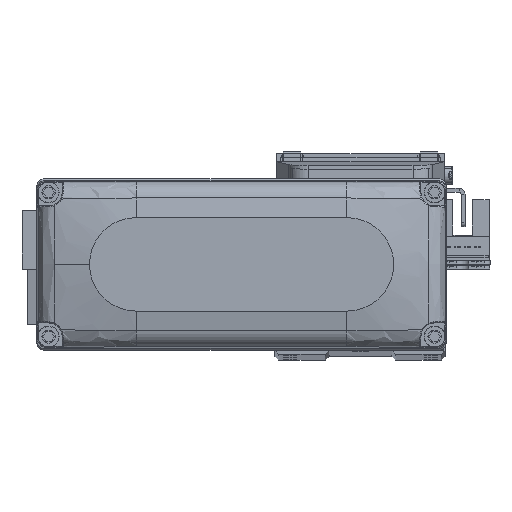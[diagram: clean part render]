
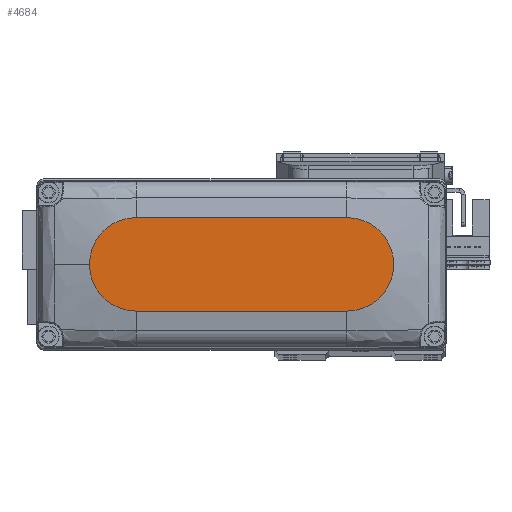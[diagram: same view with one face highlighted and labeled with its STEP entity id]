
A CAD part, top view. The second image highlights one B-rep face of the part: STEP entity #4684.
In plain terms, the highlighted planar face has unit normal (0, 0, 1).
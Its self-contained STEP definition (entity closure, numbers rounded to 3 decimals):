
#553 = AXIS2_PLACEMENT_3D ( 'NONE', #26976, #39324, #11502 ) ;
#754 = VECTOR ( 'NONE', #8410, 1000. ) ;
#893 = CIRCLE ( 'NONE', #23613, 12. ) ;
#1492 = AXIS2_PLACEMENT_3D ( 'NONE', #38382, #10558, #22970 ) ;
#2294 = CARTESIAN_POINT ( 'NONE',  ( -27., -12., 25. ) ) ;
#2669 = CARTESIAN_POINT ( 'NONE',  ( 27., -12., 25. ) ) ;
#2838 = ORIENTED_EDGE ( 'NONE', *, *, #32686, .T. ) ;
#3881 = VERTEX_POINT ( 'NONE', #13705 ) ;
#4549 = VECTOR ( 'NONE', #14683, 1000. ) ;
#4684 = ADVANCED_FACE ( 'NONE', ( #25021 ), #37369, .T. ) ;
#5836 = ORIENTED_EDGE ( 'NONE', *, *, #38751, .T. ) ;
#8092 = CARTESIAN_POINT ( 'NONE',  ( -27., 0., 25. ) ) ;
#8410 = DIRECTION ( 'NONE',  ( -1., 0., 0. ) ) ;
#8866 = EDGE_CURVE ( 'NONE', #20221, #21940, #19001, .T. ) ;
#8915 = CARTESIAN_POINT ( 'NONE',  ( -27., 12., 25. ) ) ;
#9557 = CARTESIAN_POINT ( 'NONE',  ( 0., 0., 25. ) ) ;
#10549 = CARTESIAN_POINT ( 'NONE',  ( 27., 12., 25. ) ) ;
#10558 = DIRECTION ( 'NONE',  ( 0., 0., 1. ) ) ;
#11502 = DIRECTION ( 'NONE',  ( 1., 0., 0. ) ) ;
#13705 = CARTESIAN_POINT ( 'NONE',  ( -27., -12., 25. ) ) ;
#14683 = DIRECTION ( 'NONE',  ( 1., 0., 0. ) ) ;
#15193 = ORIENTED_EDGE ( 'NONE', *, *, #20535, .T. ) ;
#18073 = CIRCLE ( 'NONE', #553, 12. ) ;
#19001 = CIRCLE ( 'NONE', #1492, 12. ) ;
#20221 = VERTEX_POINT ( 'NONE', #24520 ) ;
#20494 = DIRECTION ( 'NONE',  ( 0., 0., 1. ) ) ;
#20535 = EDGE_CURVE ( 'NONE', #21940, #21697, #23876, .T. ) ;
#21697 = VERTEX_POINT ( 'NONE', #8915 ) ;
#21940 = VERTEX_POINT ( 'NONE', #10549 ) ;
#21955 = DIRECTION ( 'NONE',  ( 0., 0., 1. ) ) ;
#22066 = ORIENTED_EDGE ( 'NONE', *, *, #23413, .T. ) ;
#22970 = DIRECTION ( 'NONE',  ( 1., 0., 0. ) ) ;
#23126 = ORIENTED_EDGE ( 'NONE', *, *, #8866, .T. ) ;
#23413 = EDGE_CURVE ( 'NONE', #21697, #3881, #893, .T. ) ;
#23613 = AXIS2_PLACEMENT_3D ( 'NONE', #8092, #20494, #32875 ) ;
#23876 = LINE ( 'NONE', #36220, #754 ) ;
#24520 = CARTESIAN_POINT ( 'NONE',  ( 39., 0., 25. ) ) ;
#25021 = FACE_OUTER_BOUND ( 'NONE', #33367, .T. ) ;
#26976 = CARTESIAN_POINT ( 'NONE',  ( 27., 0., 25. ) ) ;
#27671 = AXIS2_PLACEMENT_3D ( 'NONE', #9557, #21955, #34321 ) ;
#30135 = LINE ( 'NONE', #2294, #4549 ) ;
#32686 = EDGE_CURVE ( 'NONE', #3881, #39745, #30135, .T. ) ;
#32875 = DIRECTION ( 'NONE',  ( 1., 0., 0. ) ) ;
#33367 = EDGE_LOOP ( 'NONE', ( #15193, #22066, #2838, #5836, #23126 ) ) ;
#34321 = DIRECTION ( 'NONE',  ( 1., 0., 0. ) ) ;
#36220 = CARTESIAN_POINT ( 'NONE',  ( -27., 12., 25. ) ) ;
#37369 = PLANE ( 'NONE',  #27671 ) ;
#38382 = CARTESIAN_POINT ( 'NONE',  ( 27., 0., 25. ) ) ;
#38751 = EDGE_CURVE ( 'NONE', #39745, #20221, #18073, .T. ) ;
#39324 = DIRECTION ( 'NONE',  ( 0., 0., 1. ) ) ;
#39745 = VERTEX_POINT ( 'NONE', #2669 ) ;
